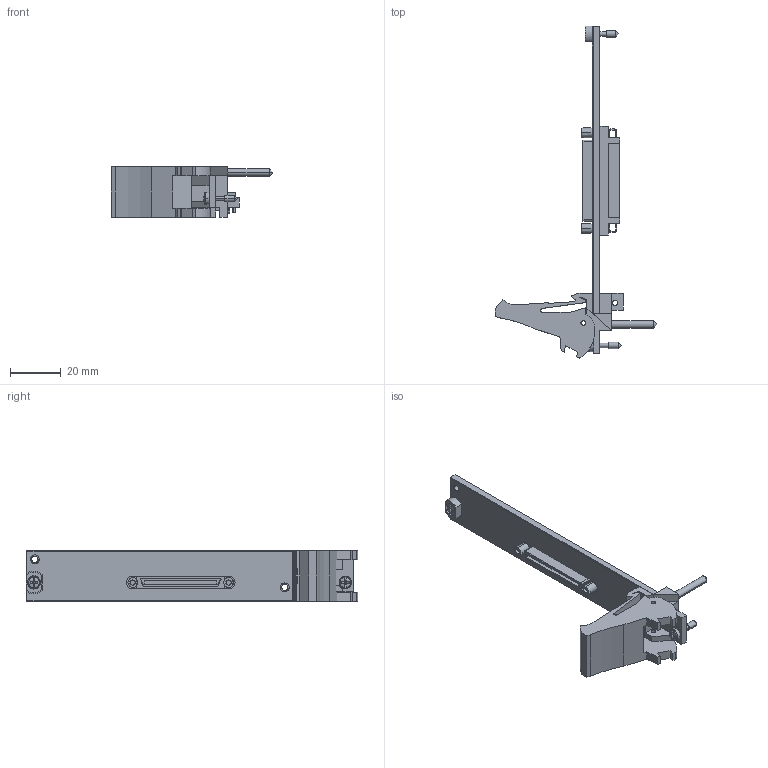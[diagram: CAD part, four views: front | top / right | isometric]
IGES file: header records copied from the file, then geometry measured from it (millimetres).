
Start section:  PTC IGES file: cu_pxi-mod-1x-68pos-vhdci.igs
Global section: file name: cu_pxi-mod-1x-68pos-vhdci.igs; native system: Pro/ENGINEER by Parametric Technology Corporation; preprocessor: 2006300; author: chrisj; organization: Unknown; date: 20070912.155243; units: inch
Bounding box: 63.53 x 130.5 x 20.02 mm (x, y, z)
Surface area: 13858.3 mm2 (no closed solid volume)
Topology: 0 solids, 0 shells, 416 faces, 2228 edges, 2224 vertices
Faces by surface type: bspline 277, revolution 139
